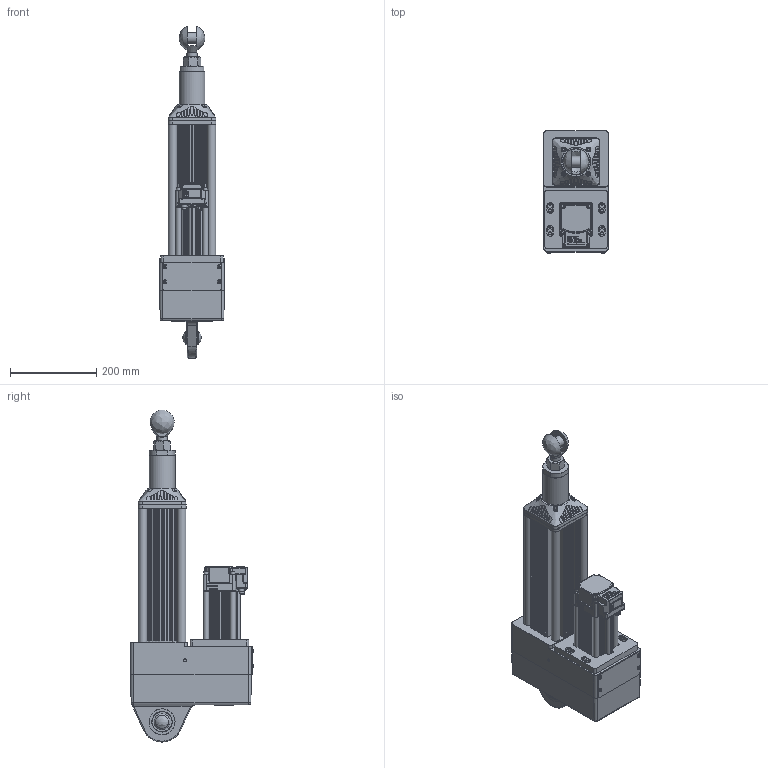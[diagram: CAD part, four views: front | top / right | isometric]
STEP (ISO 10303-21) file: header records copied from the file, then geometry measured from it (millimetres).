
FILE_DESCRIPTION (( 'STEP AP214' ), '1' );
FILE_NAME ('AG_9823 +-075.STEP', '2025-01-30T12:14:26', ( '' ), ( '' ), 'SwSTEP 2.0', 'SolidWorks 2022', '' );
FILE_SCHEMA (( 'AUTOMOTIVE_DESIGN' ));
Length unit declared in the file: millimetre
Products named in the file (1): AG_9823 +-075
Bounding box: 150 x 284.75 x 769.74 mm (x, y, z)
Volume: 12119599.2 mm3; surface area: 1226135 mm2
Topology: 62 solids, 63 shells, 4421 faces, 11357 edges, 7389 vertices
Faces by surface type: plane 1923, cylinder 1175, bspline 900, cone 251, torus 153, sphere 19
Full cylindrical faces by diameter (mm): 2.5 x2, 2.845 x2, 2.934 x2, 3 x2, 3.24 x1, 3.242 x1, 3.5 x2, 3.676 x1, 4.019 x8, 4.2 x9, 4.201 x1, 4.3 x1, 4.773 x4, 5 x12, 5.5 x4, 5.7 x1, 5.9 x1, 6 x4, 6.466 x1, 6.6 x4, 6.8 x2, 6.9 x3, 7 x1, 7.8 x1, 8 x7, 8.1 x1, 8.16 x10, 8.49 x4, 8.5 x13, 9 x1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
Entity records: 218793 total; most frequent: CARTESIAN_POINT 68774, ORIENTED_EDGE 21900, DIRECTION 18752, EDGE_CURVE 10950, VERTEX_POINT 7303, AXIS2_PLACEMENT_3D 6442, LINE 5868, VECTOR 5868
